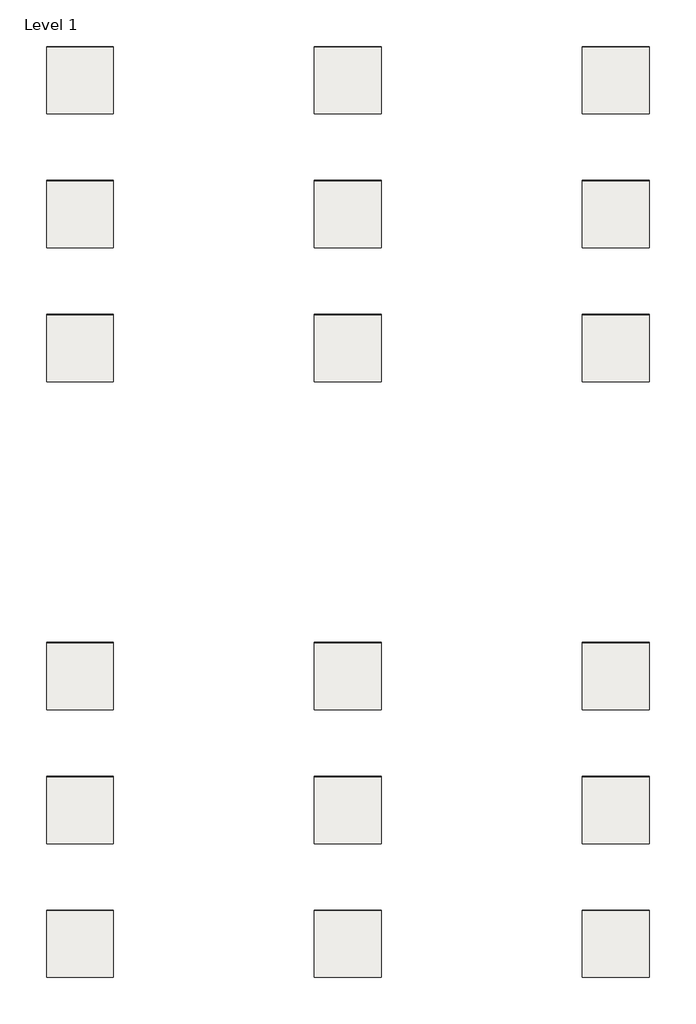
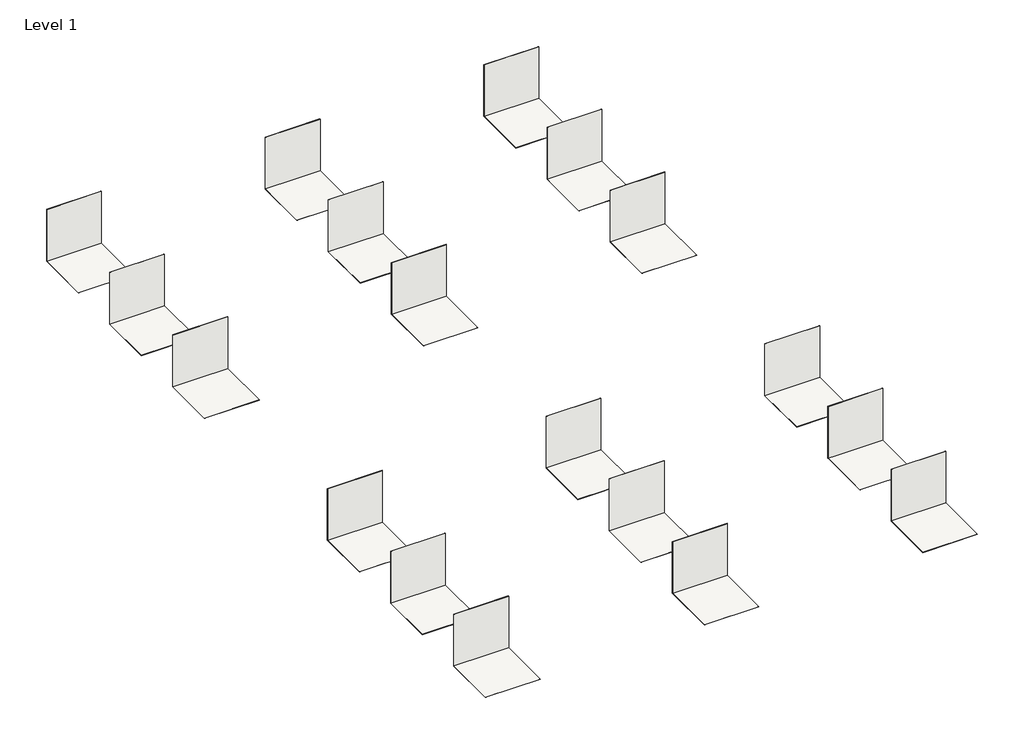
# One storey: 36 coverings.
"""IFC4 building model written with IfcOpenShell, lengths in millimetres."""

from ifc_helpers import new_model, si_unit, frame, origin, origin_with_axes, place, context, project, spatial, polyline, outline, extrude, element, save

model = new_model("IFC4")

# Units and contexts
model_context = context("Model", 3, world=origin())
ifc_project = project(units=[si_unit("LENGTHUNIT", "METRE", prefix="MILLI")], contexts=[model_context])

# Site, building, storey
site = spatial("IfcSite", under=ifc_project)
building = spatial("IfcBuilding", under=site)
storey = spatial("IfcBuildingStorey", under=building, Name="Level 1", Elevation=0.0)

# Coverings
placement = place(None, origin())
element("IfcCovering", 1, ObjectType="MARGRES-TIME 2.0-LINEA-50X100-NR-BEIGE", at=placement, inside=storey, context=model_context, shape_type="SweptSolid", body=[
    extrude(outline(polyline([(4218.6591891, -3862.4768826), (4218.6591891, -4862.4768826), (3218.6591891, -4862.4768826), (3218.6591891, -3862.4768826), (4218.6591891, -3862.4768826)])), frame((0.0, 0.0, -3.5), z_axis=(0.0, 0.0, 1.0), x_axis=(1.0, 0.0, 0.0)), (0.0, 0.0, 1.0), 3.5),
])
element("IfcCovering", 2, ObjectType="MARGRES-TIME 2.0-LINEA-50X100-NR-BEIGE", at=placement, inside=storey, context=model_context, shape_type="SweptSolid", body=[
    extrude(outline(polyline([(4218.6591891, -3862.4768826), (3218.6591891, -3862.4768826), (3218.6591891, -3858.9768826), (4218.6591891, -3858.9768826), (4218.6591891, -3862.4768826)])), origin_with_axes(), (0.0, 0.0, 1.0), 1000.0),
])
element("IfcCovering", 3, ObjectType="MARGRES-TIME 2.0-LINEA-100X300-NR-BEIGE", at=placement, inside=storey, context=model_context, shape_type="SweptSolid", body=[
    extrude(outline(polyline([(4218.6591891, -7862.4768826), (4218.6591891, -8862.4768826), (3218.6591891, -8862.4768826), (3218.6591891, -7862.4768826), (4218.6591891, -7862.4768826)])), frame((0.0, 0.0, -3.5), z_axis=(0.0, 0.0, 1.0), x_axis=(1.0, 0.0, 0.0)), (0.0, 0.0, 1.0), 3.5),
])
element("IfcCovering", 4, ObjectType="MARGRES-TIME 2.0-LINEA-100X300-NR-BEIGE", at=placement, inside=storey, context=model_context, shape_type="SweptSolid", body=[
    extrude(outline(polyline([(4218.6591891, -7862.4768826), (3218.6591891, -7862.4768826), (3218.6591891, -7858.9768826), (4218.6591891, -7858.9768826), (4218.6591891, -7862.4768826)])), origin_with_axes(), (0.0, 0.0, 1.0), 1000.0),
])
element("IfcCovering", 5, ObjectType="MARGRES-TIME 2.0-LINEA-100X100-NR-BEIGE", at=placement, inside=storey, context=model_context, shape_type="SweptSolid", body=[
    extrude(outline(polyline([(4218.6591891, -5862.4768826), (4218.6591891, -6862.4768826), (3218.6591891, -6862.4768826), (3218.6591891, -5862.4768826), (4218.6591891, -5862.4768826)])), frame((0.0, 0.0, -3.5), z_axis=(0.0, 0.0, 1.0), x_axis=(1.0, 0.0, 0.0)), (0.0, 0.0, 1.0), 3.5),
])
element("IfcCovering", 6, ObjectType="MARGRES-TIME 2.0-LINEA-100X100-NR-BEIGE", at=placement, inside=storey, context=model_context, shape_type="SweptSolid", body=[
    extrude(outline(polyline([(4218.6591891, -5862.4768826), (3218.6591891, -5862.4768826), (3218.6591891, -5858.9768826), (4218.6591891, -5858.9768826), (4218.6591891, -5862.4768826)])), origin_with_axes(), (0.0, 0.0, 1.0), 1000.0),
])
element("IfcCovering", 7, ObjectType="MARGRES-TIME 2.0-LINEA-50X100-NR-BLACK", at=placement, inside=storey, context=model_context, shape_type="SweptSolid", body=[
    extrude(outline(polyline([(8218.6591891, -3862.4768826), (8218.6591891, -4862.4768826), (7218.6591891, -4862.4768826), (7218.6591891, -3862.4768826), (8218.6591891, -3862.4768826)])), frame((0.0, 0.0, -3.5), z_axis=(0.0, 0.0, 1.0), x_axis=(1.0, 0.0, 0.0)), (0.0, 0.0, 1.0), 3.5),
])
element("IfcCovering", 8, ObjectType="MARGRES-TIME 2.0-LINEA-50X100-NR-BLACK", at=placement, inside=storey, context=model_context, shape_type="SweptSolid", body=[
    extrude(outline(polyline([(8218.6591891, -3862.4768826), (7218.6591891, -3862.4768826), (7218.6591891, -3858.9768826), (8218.6591891, -3858.9768826), (8218.6591891, -3862.4768826)])), origin_with_axes(), (0.0, 0.0, 1.0), 1000.0),
])
element("IfcCovering", 9, ObjectType="MARGRES-TIME 2.0-LINEA-100X300-NR-BLACK", at=placement, inside=storey, context=model_context, shape_type="SweptSolid", body=[
    extrude(outline(polyline([(8218.6591891, -7862.4768826), (8218.6591891, -8862.4768826), (7218.6591891, -8862.4768826), (7218.6591891, -7862.4768826), (8218.6591891, -7862.4768826)])), frame((0.0, 0.0, -3.5), z_axis=(0.0, 0.0, 1.0), x_axis=(1.0, 0.0, 0.0)), (0.0, 0.0, 1.0), 3.5),
])
element("IfcCovering", 10, ObjectType="MARGRES-TIME 2.0-LINEA-100X300-NR-BLACK", at=placement, inside=storey, context=model_context, shape_type="SweptSolid", body=[
    extrude(outline(polyline([(8218.6591891, -7862.4768826), (7218.6591891, -7862.4768826), (7218.6591891, -7858.9768826), (8218.6591891, -7858.9768826), (8218.6591891, -7862.4768826)])), origin_with_axes(), (0.0, 0.0, 1.0), 1000.0),
])
element("IfcCovering", 11, ObjectType="MARGRES-TIME 2.0-LINEA-100X100-NR-BLACK", at=placement, inside=storey, context=model_context, shape_type="SweptSolid", body=[
    extrude(outline(polyline([(8218.6591891, -5862.4768826), (8218.6591891, -6862.4768826), (7218.6591891, -6862.4768826), (7218.6591891, -5862.4768826), (8218.6591891, -5862.4768826)])), frame((0.0, 0.0, -3.5), z_axis=(0.0, 0.0, 1.0), x_axis=(1.0, 0.0, 0.0)), (0.0, 0.0, 1.0), 3.5),
])
element("IfcCovering", 12, ObjectType="MARGRES-TIME 2.0-LINEA-100X100-NR-BLACK", at=placement, inside=storey, context=model_context, shape_type="SweptSolid", body=[
    extrude(outline(polyline([(8218.6591891, -5862.4768826), (7218.6591891, -5862.4768826), (7218.6591891, -5858.9768826), (8218.6591891, -5858.9768826), (8218.6591891, -5862.4768826)])), origin_with_axes(), (0.0, 0.0, 1.0), 1000.0),
])
element("IfcCovering", 13, ObjectType="MARGRES-TIME 2.0-LINEA-50X100-NR-CARBON", at=placement, inside=storey, context=model_context, shape_type="SweptSolid", body=[
    extrude(outline(polyline([(12218.6591891, -3862.4768826), (12218.6591891, -4862.4768826), (11218.6591891, -4862.4768826), (11218.6591891, -3862.4768826), (12218.6591891, -3862.4768826)])), frame((0.0, 0.0, -3.5), z_axis=(0.0, 0.0, 1.0), x_axis=(1.0, 0.0, 0.0)), (0.0, 0.0, 1.0), 3.5),
])
element("IfcCovering", 14, ObjectType="MARGRES-TIME 2.0-LINEA-50X100-NR-CARBON", at=placement, inside=storey, context=model_context, shape_type="SweptSolid", body=[
    extrude(outline(polyline([(12218.6591891, -3862.4768826), (11218.6591891, -3862.4768826), (11218.6591891, -3858.9768826), (12218.6591891, -3858.9768826), (12218.6591891, -3862.4768826)])), origin_with_axes(), (0.0, 0.0, 1.0), 1000.0),
])
element("IfcCovering", 15, ObjectType="MARGRES-TIME 2.0-LINEA-100X300-NR-CARBON", at=placement, inside=storey, context=model_context, shape_type="SweptSolid", body=[
    extrude(outline(polyline([(12218.6591891, -7862.4768826), (12218.6591891, -8862.4768826), (11218.6591891, -8862.4768826), (11218.6591891, -7862.4768826), (12218.6591891, -7862.4768826)])), frame((0.0, 0.0, -3.5), z_axis=(0.0, 0.0, 1.0), x_axis=(1.0, 0.0, 0.0)), (0.0, 0.0, 1.0), 3.5),
])
element("IfcCovering", 16, ObjectType="MARGRES-TIME 2.0-LINEA-100X300-NR-CARBON", at=placement, inside=storey, context=model_context, shape_type="SweptSolid", body=[
    extrude(outline(polyline([(12218.6591891, -7862.4768826), (11218.6591891, -7862.4768826), (11218.6591891, -7858.9768826), (12218.6591891, -7858.9768826), (12218.6591891, -7862.4768826)])), origin_with_axes(), (0.0, 0.0, 1.0), 1000.0),
])
element("IfcCovering", 17, ObjectType="MARGRES-TIME 2.0-LINEA-100X100-NR-CARBON", at=placement, inside=storey, context=model_context, shape_type="SweptSolid", body=[
    extrude(outline(polyline([(12218.6591891, -5862.4768826), (12218.6591891, -6862.4768826), (11218.6591891, -6862.4768826), (11218.6591891, -5862.4768826), (12218.6591891, -5862.4768826)])), frame((0.0, 0.0, -3.5), z_axis=(0.0, 0.0, 1.0), x_axis=(1.0, 0.0, 0.0)), (0.0, 0.0, 1.0), 3.5),
])
element("IfcCovering", 18, ObjectType="MARGRES-TIME 2.0-LINEA-100X100-NR-CARBON", at=placement, inside=storey, context=model_context, shape_type="SweptSolid", body=[
    extrude(outline(polyline([(12218.6591891, -5862.4768826), (11218.6591891, -5862.4768826), (11218.6591891, -5858.9768826), (12218.6591891, -5858.9768826), (12218.6591891, -5862.4768826)])), origin_with_axes(), (0.0, 0.0, 1.0), 1000.0),
])
element("IfcCovering", 19, ObjectType="MARGRES-TIME 2.0-LINEA-100X300-NR-SILVER", at=placement, inside=storey, context=model_context, shape_type="SweptSolid", body=[
    extrude(outline(polyline([(8218.6591891, -16762.4768826), (8218.6591891, -17762.4768826), (7218.6591891, -17762.4768826), (7218.6591891, -16762.4768826), (8218.6591891, -16762.4768826)])), frame((0.0, 0.0, -3.5), z_axis=(0.0, 0.0, 1.0), x_axis=(1.0, 0.0, 0.0)), (0.0, 0.0, 1.0), 3.5),
])
element("IfcCovering", 20, ObjectType="MARGRES-TIME 2.0-LINEA-100X300-NR-SILVER", at=placement, inside=storey, context=model_context, shape_type="SweptSolid", body=[
    extrude(outline(polyline([(8218.6591891, -16762.4768826), (7218.6591891, -16762.4768826), (7218.6591891, -16758.9768826), (8218.6591891, -16758.9768826), (8218.6591891, -16762.4768826)])), origin_with_axes(), (0.0, 0.0, 1.0), 1000.0),
])
element("IfcCovering", 21, ObjectType="MARGRES-TIME 2.0-LINEA-100X100-NR-SILVER", at=placement, inside=storey, context=model_context, shape_type="SweptSolid", body=[
    extrude(outline(polyline([(8218.6591891, -14762.4768826), (8218.6591891, -15762.4768826), (7218.6591891, -15762.4768826), (7218.6591891, -14762.4768826), (8218.6591891, -14762.4768826)])), frame((0.0, 0.0, -3.5), z_axis=(0.0, 0.0, 1.0), x_axis=(1.0, 0.0, 0.0)), (0.0, 0.0, 1.0), 3.5),
])
element("IfcCovering", 22, ObjectType="MARGRES-TIME 2.0-LINEA-100X100-NR-SILVER", at=placement, inside=storey, context=model_context, shape_type="SweptSolid", body=[
    extrude(outline(polyline([(8218.6591891, -14762.4768826), (7218.6591891, -14762.4768826), (7218.6591891, -14758.9768826), (8218.6591891, -14758.9768826), (8218.6591891, -14762.4768826)])), origin_with_axes(), (0.0, 0.0, 1.0), 1000.0),
])
element("IfcCovering", 23, ObjectType="MARGRES-TIME 2.0-LINEA-100X300-NR-SNOW", at=placement, inside=storey, context=model_context, shape_type="SweptSolid", body=[
    extrude(outline(polyline([(12218.6591891, -16762.4768826), (12218.6591891, -17762.4768826), (11218.6591891, -17762.4768826), (11218.6591891, -16762.4768826), (12218.6591891, -16762.4768826)])), frame((0.0, 0.0, -3.5), z_axis=(0.0, 0.0, 1.0), x_axis=(1.0, 0.0, 0.0)), (0.0, 0.0, 1.0), 3.5),
])
element("IfcCovering", 24, ObjectType="MARGRES-TIME 2.0-LINEA-100X300-NR-SNOW", at=placement, inside=storey, context=model_context, shape_type="SweptSolid", body=[
    extrude(outline(polyline([(12218.6591891, -16762.4768826), (11218.6591891, -16762.4768826), (11218.6591891, -16758.9768826), (12218.6591891, -16758.9768826), (12218.6591891, -16762.4768826)])), origin_with_axes(), (0.0, 0.0, 1.0), 1000.0),
])
element("IfcCovering", 25, ObjectType="MARGRES-TIME 2.0-LINEA-100X100-NR-SNOW", at=placement, inside=storey, context=model_context, shape_type="SweptSolid", body=[
    extrude(outline(polyline([(12218.6591891, -14762.4768826), (12218.6591891, -15762.4768826), (11218.6591891, -15762.4768826), (11218.6591891, -14762.4768826), (12218.6591891, -14762.4768826)])), frame((0.0, 0.0, -3.5), z_axis=(0.0, 0.0, 1.0), x_axis=(1.0, 0.0, 0.0)), (0.0, 0.0, 1.0), 3.5),
])
element("IfcCovering", 26, ObjectType="MARGRES-TIME 2.0-LINEA-100X100-NR-SNOW", at=placement, inside=storey, context=model_context, shape_type="SweptSolid", body=[
    extrude(outline(polyline([(12218.6591891, -14762.4768826), (11218.6591891, -14762.4768826), (11218.6591891, -14758.9768826), (12218.6591891, -14758.9768826), (12218.6591891, -14762.4768826)])), origin_with_axes(), (0.0, 0.0, 1.0), 1000.0),
])
element("IfcCovering", 27, ObjectType="MARGRES-TIME 2.0-LINEA-50X100-NR-SILVER", at=placement, inside=storey, context=model_context, shape_type="SweptSolid", body=[
    extrude(outline(polyline([(8218.6591891, -12762.4768826), (8218.6591891, -13762.4768826), (7218.6591891, -13762.4768826), (7218.6591891, -12762.4768826), (8218.6591891, -12762.4768826)])), frame((0.0, 0.0, -3.5), z_axis=(0.0, 0.0, 1.0), x_axis=(1.0, 0.0, 0.0)), (0.0, 0.0, 1.0), 3.5),
])
element("IfcCovering", 28, ObjectType="MARGRES-TIME 2.0-LINEA-50X100-NR-SILVER", at=placement, inside=storey, context=model_context, shape_type="SweptSolid", body=[
    extrude(outline(polyline([(8218.6591891, -12762.4768826), (7218.6591891, -12762.4768826), (7218.6591891, -12758.9768826), (8218.6591891, -12758.9768826), (8218.6591891, -12762.4768826)])), origin_with_axes(), (0.0, 0.0, 1.0), 1000.0),
])
element("IfcCovering", 29, ObjectType="MARGRES-TIME 2.0-LINEA-50X100-NR-SNOW", at=placement, inside=storey, context=model_context, shape_type="SweptSolid", body=[
    extrude(outline(polyline([(12218.6591891, -12762.4768826), (12218.6591891, -13762.4768826), (11218.6591891, -13762.4768826), (11218.6591891, -12762.4768826), (12218.6591891, -12762.4768826)])), frame((0.0, 0.0, -3.5), z_axis=(0.0, 0.0, 1.0), x_axis=(1.0, 0.0, 0.0)), (0.0, 0.0, 1.0), 3.5),
])
element("IfcCovering", 30, ObjectType="MARGRES-TIME 2.0-LINEA-50X100-NR-SNOW", at=placement, inside=storey, context=model_context, shape_type="SweptSolid", body=[
    extrude(outline(polyline([(12218.6591891, -12762.4768826), (11218.6591891, -12762.4768826), (11218.6591891, -12758.9768826), (12218.6591891, -12758.9768826), (12218.6591891, -12762.4768826)])), origin_with_axes(), (0.0, 0.0, 1.0), 1000.0),
])
element("IfcCovering", 31, ObjectType="MARGRES-TIME 2.0-LINEA-50X100-NR-CREAM", at=placement, inside=storey, context=model_context, shape_type="SweptSolid", body=[
    extrude(outline(polyline([(4218.6591891, -12762.4768826), (4218.6591891, -13762.4768826), (3218.6591891, -13762.4768826), (3218.6591891, -12762.4768826), (4218.6591891, -12762.4768826)])), frame((0.0, 0.0, -3.5), z_axis=(0.0, 0.0, 1.0), x_axis=(1.0, 0.0, 0.0)), (0.0, 0.0, 1.0), 3.5),
])
element("IfcCovering", 32, ObjectType="MARGRES-TIME 2.0-LINEA-50X100-NR-CREAM", at=placement, inside=storey, context=model_context, shape_type="SweptSolid", body=[
    extrude(outline(polyline([(4218.6591891, -12762.4768826), (3218.6591891, -12762.4768826), (3218.6591891, -12758.9768826), (4218.6591891, -12758.9768826), (4218.6591891, -12762.4768826)])), origin_with_axes(), (0.0, 0.0, 1.0), 1000.0),
])
element("IfcCovering", 33, ObjectType="MARGRES-TIME 2.0-LINEA-100X300-NR-CREAM", at=placement, inside=storey, context=model_context, shape_type="SweptSolid", body=[
    extrude(outline(polyline([(4218.6591891, -16762.4768826), (4218.6591891, -17762.4768826), (3218.6591891, -17762.4768826), (3218.6591891, -16762.4768826), (4218.6591891, -16762.4768826)])), frame((0.0, 0.0, -3.5), z_axis=(0.0, 0.0, 1.0), x_axis=(1.0, 0.0, 0.0)), (0.0, 0.0, 1.0), 3.5),
])
element("IfcCovering", 34, ObjectType="MARGRES-TIME 2.0-LINEA-100X300-NR-CREAM", at=placement, inside=storey, context=model_context, shape_type="SweptSolid", body=[
    extrude(outline(polyline([(4218.6591891, -16762.4768826), (3218.6591891, -16762.4768826), (3218.6591891, -16758.9768826), (4218.6591891, -16758.9768826), (4218.6591891, -16762.4768826)])), origin_with_axes(), (0.0, 0.0, 1.0), 1000.0),
])
element("IfcCovering", 35, ObjectType="MARGRES-TIME 2.0-LINEA-100X100-NR-CREAM", at=placement, inside=storey, context=model_context, shape_type="SweptSolid", body=[
    extrude(outline(polyline([(4218.6591891, -14762.4768826), (4218.6591891, -15762.4768826), (3218.6591891, -15762.4768826), (3218.6591891, -14762.4768826), (4218.6591891, -14762.4768826)])), frame((0.0, 0.0, -3.5), z_axis=(0.0, 0.0, 1.0), x_axis=(1.0, 0.0, 0.0)), (0.0, 0.0, 1.0), 3.5),
])
element("IfcCovering", 36, ObjectType="MARGRES-TIME 2.0-LINEA-100X100-NR-CREAM", at=placement, inside=storey, context=model_context, shape_type="SweptSolid", body=[
    extrude(outline(polyline([(4218.6591891, -14762.4768826), (3218.6591891, -14762.4768826), (3218.6591891, -14758.9768826), (4218.6591891, -14758.9768826), (4218.6591891, -14762.4768826)])), origin_with_axes(), (0.0, 0.0, 1.0), 1000.0),
])

save(model, "model.ifc")
